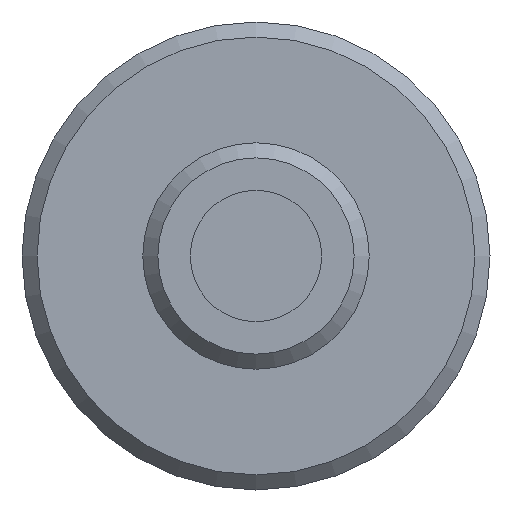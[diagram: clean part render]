
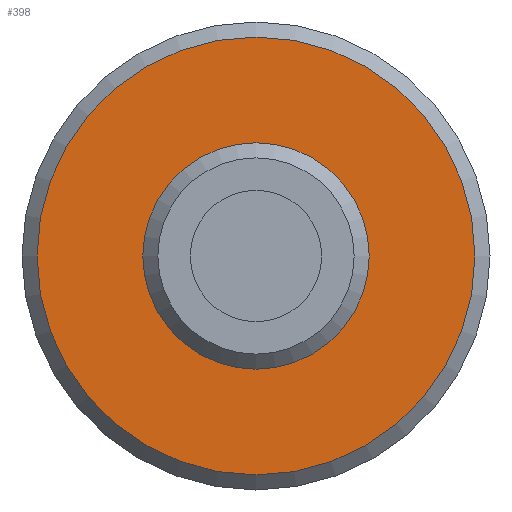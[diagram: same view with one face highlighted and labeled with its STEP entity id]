
A CAD part, front view. The second image highlights one B-rep face of the part: STEP entity #398.
In plain terms, the highlighted planar face has unit normal (0, -1, 0).
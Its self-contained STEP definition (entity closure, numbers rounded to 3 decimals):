
#33=FACE_BOUND('',#97,.T.);
#41=PLANE('',#457);
#60=FACE_OUTER_BOUND('',#96,.T.);
#96=EDGE_LOOP('',(#289));
#97=EDGE_LOOP('',(#290));
#173=CIRCLE('',#455,7.5);
#175=CIRCLE('',#458,14.5);
#205=VERTEX_POINT('',#679);
#207=VERTEX_POINT('',#685);
#236=EDGE_CURVE('',#205,#205,#173,.T.);
#239=EDGE_CURVE('',#207,#207,#175,.T.);
#289=ORIENTED_EDGE('',*,*,#239,.F.);
#290=ORIENTED_EDGE('',*,*,#236,.T.);
#398=ADVANCED_FACE('',(#60,#33),#41,.T.);
#455=AXIS2_PLACEMENT_3D('',#680,#526,#527);
#457=AXIS2_PLACEMENT_3D('',#684,#531,#532);
#458=AXIS2_PLACEMENT_3D('',#686,#533,#534);
#526=DIRECTION('center_axis',(0.,1.,0.));
#527=DIRECTION('ref_axis',(1.,0.,0.));
#531=DIRECTION('center_axis',(0.,-1.,0.));
#532=DIRECTION('ref_axis',(0.,0.,-1.));
#533=DIRECTION('center_axis',(0.,1.,0.));
#534=DIRECTION('ref_axis',(1.,0.,0.));
#679=CARTESIAN_POINT('',(0.,20.,-7.5));
#680=CARTESIAN_POINT('Origin',(0.,20.,0.));
#684=CARTESIAN_POINT('Origin',(0.,20.,14.5));
#685=CARTESIAN_POINT('',(0.,20.,-14.5));
#686=CARTESIAN_POINT('Origin',(0.,20.,0.));
